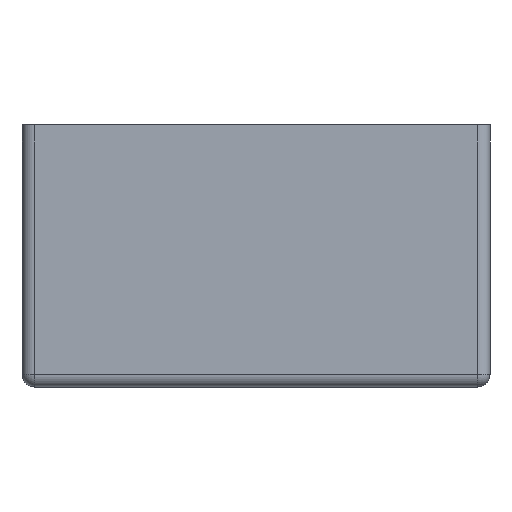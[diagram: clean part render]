
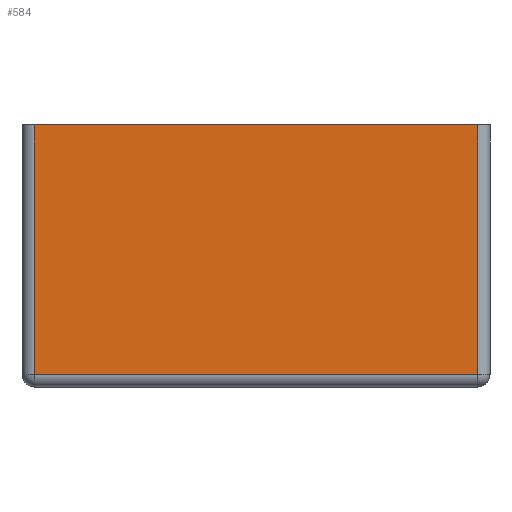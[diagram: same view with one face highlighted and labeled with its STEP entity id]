
A CAD part, left-side view. The second image highlights one B-rep face of the part: STEP entity #584.
In plain terms, the highlighted planar face has unit normal (-1, 0, 0).
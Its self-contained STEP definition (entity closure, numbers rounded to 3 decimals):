
#235 = EDGE_CURVE ( 'NONE', #1024, #1643, #437, .T. ) ;
#256 = CARTESIAN_POINT ( 'NONE',  ( -5.5, 35.5, 0. ) ) ;
#281 = DIRECTION ( 'NONE',  ( 0., 1., 0. ) ) ;
#293 = CARTESIAN_POINT ( 'NONE',  ( -5.5, -35.5, 40. ) ) ;
#388 = LINE ( 'NONE', #968, #1080 ) ;
#396 = CARTESIAN_POINT ( 'NONE',  ( -5.5, -35.5, 40. ) ) ;
#437 = LINE ( 'NONE', #1789, #1374 ) ;
#527 = VECTOR ( 'NONE', #1730, 1000. ) ;
#562 = DIRECTION ( 'NONE',  ( 0., 0., -1. ) ) ;
#573 = VERTEX_POINT ( 'NONE', #2211 ) ;
#584 = ADVANCED_FACE ( 'NONE', ( #836 ), #1422, .T. ) ;
#636 = EDGE_LOOP ( 'NONE', ( #790, #1525, #1798, #714 ) ) ;
#714 = ORIENTED_EDGE ( 'NONE', *, *, #1184, .T. ) ;
#790 = ORIENTED_EDGE ( 'NONE', *, *, #2048, .T. ) ;
#836 = FACE_OUTER_BOUND ( 'NONE', #636, .T. ) ;
#853 = AXIS2_PLACEMENT_3D ( 'NONE', #2009, #1839, #1083 ) ;
#855 = CARTESIAN_POINT ( 'NONE',  ( -5.5, 37.5, 40. ) ) ;
#906 = VERTEX_POINT ( 'NONE', #293 ) ;
#968 = CARTESIAN_POINT ( 'NONE',  ( -5.5, 35.5, -2. ) ) ;
#1024 = VERTEX_POINT ( 'NONE', #256 ) ;
#1080 = VECTOR ( 'NONE', #562, 1000. ) ;
#1083 = DIRECTION ( 'NONE',  ( 0., -1., 0. ) ) ;
#1184 = EDGE_CURVE ( 'NONE', #1643, #906, #2046, .T. ) ;
#1202 = LINE ( 'NONE', #855, #2386 ) ;
#1374 = VECTOR ( 'NONE', #2171, 1000. ) ;
#1422 = PLANE ( 'NONE',  #853 ) ;
#1525 = ORIENTED_EDGE ( 'NONE', *, *, #1706, .T. ) ;
#1643 = VERTEX_POINT ( 'NONE', #1854 ) ;
#1706 = EDGE_CURVE ( 'NONE', #573, #1024, #388, .T. ) ;
#1730 = DIRECTION ( 'NONE',  ( 0., 0., 1. ) ) ;
#1789 = CARTESIAN_POINT ( 'NONE',  ( -5.5, 37.5, 0. ) ) ;
#1798 = ORIENTED_EDGE ( 'NONE', *, *, #235, .T. ) ;
#1839 = DIRECTION ( 'NONE',  ( -1., 0., 0. ) ) ;
#1854 = CARTESIAN_POINT ( 'NONE',  ( -5.5, -35.5, 0. ) ) ;
#2009 = CARTESIAN_POINT ( 'NONE',  ( -5.5, 37.5, 115.027 ) ) ;
#2046 = LINE ( 'NONE', #396, #527 ) ;
#2048 = EDGE_CURVE ( 'NONE', #906, #573, #1202, .T. ) ;
#2171 = DIRECTION ( 'NONE',  ( 0., -1., 0. ) ) ;
#2211 = CARTESIAN_POINT ( 'NONE',  ( -5.5, 35.5, 40. ) ) ;
#2386 = VECTOR ( 'NONE', #281, 1000. ) ;
